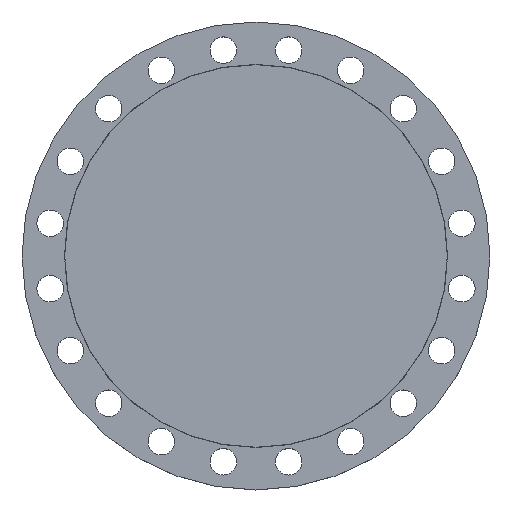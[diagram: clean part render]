
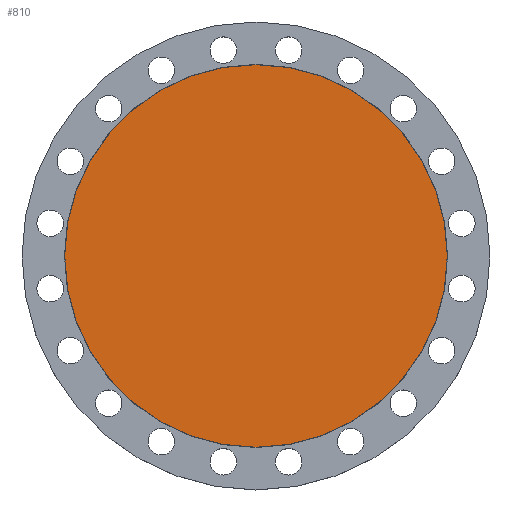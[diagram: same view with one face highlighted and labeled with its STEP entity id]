
A CAD part, top view. The second image highlights one B-rep face of the part: STEP entity #810.
In plain terms, the highlighted planar face has unit normal (0, 0, 1).
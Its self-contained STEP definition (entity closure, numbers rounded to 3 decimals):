
#144 = DIRECTION ( 'NONE',  ( -1., 0., 0. ) ) ;
#145 = DIRECTION ( 'NONE',  ( 0., 0., -1. ) ) ;
#147 = CARTESIAN_POINT ( 'NONE',  ( 0., 0., 0. ) ) ;
#212 = CARTESIAN_POINT ( 'NONE',  ( 280., 0., 0. ) ) ;
#260 = AXIS2_PLACEMENT_3D ( 'NONE', #1424, #1357, #1290 ) ;
#440 = EDGE_LOOP ( 'NONE', ( #1474, #1478 ) ) ;
#468 = VERTEX_POINT ( 'NONE', #212 ) ;
#536 = CARTESIAN_POINT ( 'NONE',  ( -280., 0., 0. ) ) ;
#543 = CARTESIAN_POINT ( 'NONE',  ( 0., 0., 0. ) ) ;
#550 = AXIS2_PLACEMENT_3D ( 'NONE', #147, #145, #144 ) ;
#566 = EDGE_CURVE ( 'NONE', #468, #999, #887, .T. ) ;
#810 = ADVANCED_FACE ( 'NONE', ( #1576 ), #1537, .T. ) ;
#887 = CIRCLE ( 'NONE', #550, 280. ) ;
#999 = VERTEX_POINT ( 'NONE', #536 ) ;
#1248 = DIRECTION ( 'NONE',  ( 0., 0., -1. ) ) ;
#1290 = DIRECTION ( 'NONE',  ( 1., 0., 0. ) ) ;
#1357 = DIRECTION ( 'NONE',  ( 0., 0., 1. ) ) ;
#1424 = CARTESIAN_POINT ( 'NONE',  ( 0., 0., 0. ) ) ;
#1474 = ORIENTED_EDGE ( 'NONE', *, *, #1826, .F. ) ;
#1478 = ORIENTED_EDGE ( 'NONE', *, *, #566, .F. ) ;
#1537 = PLANE ( 'NONE',  #260 ) ;
#1576 = FACE_OUTER_BOUND ( 'NONE', #440, .T. ) ;
#1667 = CIRCLE ( 'NONE', #1670, 280. ) ;
#1669 = DIRECTION ( 'NONE',  ( -1., 0., 0. ) ) ;
#1670 = AXIS2_PLACEMENT_3D ( 'NONE', #543, #1248, #1669 ) ;
#1826 = EDGE_CURVE ( 'NONE', #999, #468, #1667, .T. ) ;
